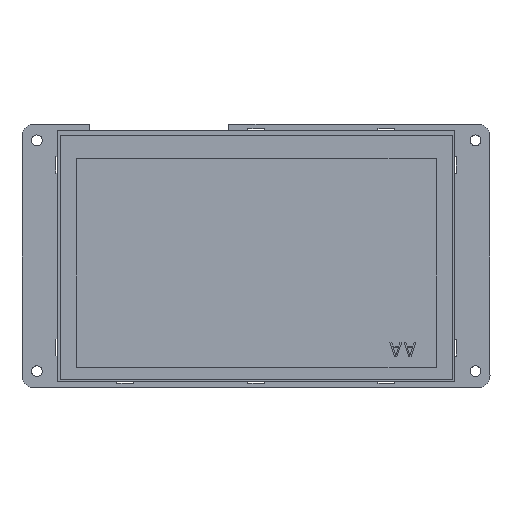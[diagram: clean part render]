
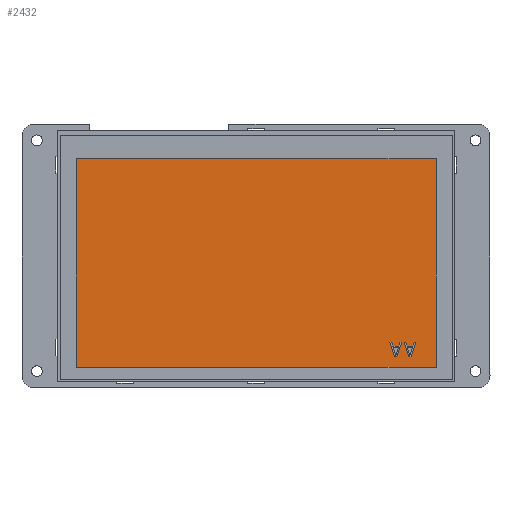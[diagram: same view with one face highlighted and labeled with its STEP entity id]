
A CAD part, front view. The second image highlights one B-rep face of the part: STEP entity #2432.
In plain terms, the highlighted planar face has unit normal (0, -1, 0) as drawn and (0, 1, 0) by its records, which use the part's own axes.
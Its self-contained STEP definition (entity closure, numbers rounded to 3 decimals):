
#1859=DIRECTION('',(0.,0.,1.));
#1860=VECTOR('',#1859,63.8);
#1861=CARTESIAN_POINT('',(-55.1,1.45,-33.55));
#1862=LINE('',#1861,#1860);
#1863=DIRECTION('',(-1.,0.,0.));
#1864=VECTOR('',#1863,110.2);
#1865=CARTESIAN_POINT('',(55.1,1.45,-33.55));
#1866=LINE('',#1865,#1864);
#1867=DIRECTION('',(0.,0.,-1.));
#1868=VECTOR('',#1867,63.8);
#1869=CARTESIAN_POINT('',(55.1,1.45,30.25));
#1870=LINE('',#1869,#1868);
#1871=DIRECTION('',(1.,0.,0.));
#1872=VECTOR('',#1871,110.2);
#1873=CARTESIAN_POINT('',(-55.1,1.45,30.25));
#1874=LINE('',#1873,#1872);
#1875=DIRECTION('',(0.316,0.,0.949));
#1876=VECTOR('',#1875,4.585);
#1877=CARTESIAN_POINT('',(-46.735,1.45,-30.336));
#1878=LINE('',#1877,#1876);
#1879=DIRECTION('',(1.,0.,0.));
#1880=VECTOR('',#1879,0.725);
#1881=CARTESIAN_POINT('',(-47.46,1.45,-30.336));
#1882=LINE('',#1881,#1880);
#1883=DIRECTION('',(0.316,0.,-0.949));
#1884=VECTOR('',#1883,4.585);
#1885=CARTESIAN_POINT('',(-48.91,1.45,-25.986));
#1886=LINE('',#1885,#1884);
#1887=DIRECTION('',(-1.,0.,0.));
#1888=VECTOR('',#1887,0.544);
#1889=CARTESIAN_POINT('',(-48.366,1.45,-25.986));
#1890=LINE('',#1889,#1888);
#1891=DIRECTION('',(-0.31,0.,0.951));
#1892=VECTOR('',#1891,1.168);
#1893=CARTESIAN_POINT('',(-48.004,1.45,-27.097));
#1894=LINE('',#1893,#1892);
#1895=DIRECTION('',(-1.,0.,0.));
#1896=VECTOR('',#1895,1.813);
#1897=CARTESIAN_POINT('',(-46.191,1.45,-27.097));
#1898=LINE('',#1897,#1896);
#1899=DIRECTION('',(-0.31,0.,-0.951));
#1900=VECTOR('',#1899,1.168);
#1901=CARTESIAN_POINT('',(-45.829,1.45,-25.986));
#1902=LINE('',#1901,#1900);
#1903=DIRECTION('',(-1.,0.,0.));
#1904=VECTOR('',#1903,0.544);
#1905=CARTESIAN_POINT('',(-45.285,1.45,-25.986));
#1906=LINE('',#1905,#1904);
#1919=DIRECTION('',(0.316,0.,0.949));
#1920=VECTOR('',#1919,4.585);
#1921=CARTESIAN_POINT('',(-42.385,1.45,-30.336));
#1922=LINE('',#1921,#1920);
#1923=DIRECTION('',(1.,0.,0.));
#1924=VECTOR('',#1923,0.725);
#1925=CARTESIAN_POINT('',(-43.11,1.45,-30.336));
#1926=LINE('',#1925,#1924);
#1927=DIRECTION('',(0.316,0.,-0.949));
#1928=VECTOR('',#1927,4.585);
#1929=CARTESIAN_POINT('',(-44.56,1.45,-25.986));
#1930=LINE('',#1929,#1928);
#1931=DIRECTION('',(-1.,0.,0.));
#1932=VECTOR('',#1931,0.544);
#1933=CARTESIAN_POINT('',(-44.016,1.45,-25.986));
#1934=LINE('',#1933,#1932);
#1935=DIRECTION('',(-0.31,0.,0.951));
#1936=VECTOR('',#1935,1.168);
#1937=CARTESIAN_POINT('',(-43.654,1.45,-27.097));
#1938=LINE('',#1937,#1936);
#1939=DIRECTION('',(-1.,0.,0.));
#1940=VECTOR('',#1939,1.812);
#1941=CARTESIAN_POINT('',(-41.841,1.45,-27.097));
#1942=LINE('',#1941,#1940);
#1943=DIRECTION('',(-0.31,0.,-0.951));
#1944=VECTOR('',#1943,1.168);
#1945=CARTESIAN_POINT('',(-41.479,1.45,-25.986));
#1946=LINE('',#1945,#1944);
#1947=DIRECTION('',(-1.,0.,0.));
#1948=VECTOR('',#1947,0.544);
#1949=CARTESIAN_POINT('',(-40.935,1.45,-25.986));
#1950=LINE('',#1949,#1948);
#2067=CARTESIAN_POINT('',(-55.1,1.45,-33.55));
#2068=CARTESIAN_POINT('',(-55.1,1.45,30.25));
#2069=VERTEX_POINT('',#2067);
#2070=VERTEX_POINT('',#2068);
#2071=CARTESIAN_POINT('',(55.1,1.45,30.25));
#2072=VERTEX_POINT('',#2071);
#2073=CARTESIAN_POINT('',(55.1,1.45,-33.55));
#2074=VERTEX_POINT('',#2073);
#2075=CARTESIAN_POINT('',(-46.735,1.45,-30.336));
#2076=CARTESIAN_POINT('',(-45.285,1.45,-25.986));
#2077=VERTEX_POINT('',#2075);
#2078=VERTEX_POINT('',#2076);
#2079=CARTESIAN_POINT('',(-45.829,1.45,-25.986));
#2080=VERTEX_POINT('',#2079);
#2081=CARTESIAN_POINT('',(-46.191,1.45,-27.097));
#2082=VERTEX_POINT('',#2081);
#2083=CARTESIAN_POINT('',(-48.004,1.45,-27.097));
#2084=VERTEX_POINT('',#2083);
#2085=CARTESIAN_POINT('',(-48.366,1.45,-25.986));
#2086=VERTEX_POINT('',#2085);
#2087=CARTESIAN_POINT('',(-48.91,1.45,-25.986));
#2088=VERTEX_POINT('',#2087);
#2089=CARTESIAN_POINT('',(-47.46,1.45,-30.336));
#2090=VERTEX_POINT('',#2089);
#2097=CARTESIAN_POINT('',(-42.385,1.45,-30.336));
#2098=CARTESIAN_POINT('',(-40.935,1.45,-25.986));
#2099=VERTEX_POINT('',#2097);
#2100=VERTEX_POINT('',#2098);
#2101=CARTESIAN_POINT('',(-41.479,1.45,-25.986));
#2102=VERTEX_POINT('',#2101);
#2103=CARTESIAN_POINT('',(-41.841,1.45,-27.097));
#2104=VERTEX_POINT('',#2103);
#2105=CARTESIAN_POINT('',(-43.654,1.45,-27.097));
#2106=VERTEX_POINT('',#2105);
#2107=CARTESIAN_POINT('',(-44.016,1.45,-25.986));
#2108=VERTEX_POINT('',#2107);
#2109=CARTESIAN_POINT('',(-44.56,1.45,-25.986));
#2110=VERTEX_POINT('',#2109);
#2111=CARTESIAN_POINT('',(-43.11,1.45,-30.336));
#2112=VERTEX_POINT('',#2111);
#2385=CARTESIAN_POINT('',(0.,1.45,0.));
#2386=DIRECTION('',(0.,1.,0.));
#2387=DIRECTION('',(1.,0.,0.));
#2388=AXIS2_PLACEMENT_3D('',#2385,#2386,#2387);
#2389=PLANE('',#2388);
#2390=ORIENTED_EDGE('',*,*,#2337,.F.);
#2391=ORIENTED_EDGE('',*,*,#2352,.F.);
#2392=ORIENTED_EDGE('',*,*,#2366,.F.);
#2393=ORIENTED_EDGE('',*,*,#2379,.F.);
#2394=EDGE_LOOP('',(#2390,#2391,#2392,#2393));
#2395=FACE_OUTER_BOUND('',#2394,.F.);
#2397=ORIENTED_EDGE('',*,*,#2396,.F.);
#2399=ORIENTED_EDGE('',*,*,#2398,.F.);
#2401=ORIENTED_EDGE('',*,*,#2400,.F.);
#2403=ORIENTED_EDGE('',*,*,#2402,.F.);
#2405=ORIENTED_EDGE('',*,*,#2404,.F.);
#2407=ORIENTED_EDGE('',*,*,#2406,.F.);
#2409=ORIENTED_EDGE('',*,*,#2408,.F.);
#2411=ORIENTED_EDGE('',*,*,#2410,.F.);
#2412=EDGE_LOOP('',(#2397,#2399,#2401,#2403,#2405,#2407,#2409,#2411));
#2413=FACE_BOUND('',#2412,.F.);
#2415=ORIENTED_EDGE('',*,*,#2414,.F.);
#2417=ORIENTED_EDGE('',*,*,#2416,.F.);
#2419=ORIENTED_EDGE('',*,*,#2418,.F.);
#2421=ORIENTED_EDGE('',*,*,#2420,.F.);
#2423=ORIENTED_EDGE('',*,*,#2422,.F.);
#2425=ORIENTED_EDGE('',*,*,#2424,.F.);
#2427=ORIENTED_EDGE('',*,*,#2426,.F.);
#2429=ORIENTED_EDGE('',*,*,#2428,.F.);
#2430=EDGE_LOOP('',(#2415,#2417,#2419,#2421,#2423,#2425,#2427,#2429));
#2431=FACE_BOUND('',#2430,.F.);
#2337=EDGE_CURVE('',#2069,#2070,#1862,.T.);
#2352=EDGE_CURVE('',#2074,#2069,#1866,.T.);
#2366=EDGE_CURVE('',#2072,#2074,#1870,.T.);
#2379=EDGE_CURVE('',#2070,#2072,#1874,.T.);
#2396=EDGE_CURVE('',#2077,#2078,#1878,.T.);
#2398=EDGE_CURVE('',#2090,#2077,#1882,.T.);
#2400=EDGE_CURVE('',#2088,#2090,#1886,.T.);
#2402=EDGE_CURVE('',#2086,#2088,#1890,.T.);
#2404=EDGE_CURVE('',#2084,#2086,#1894,.T.);
#2406=EDGE_CURVE('',#2082,#2084,#1898,.T.);
#2408=EDGE_CURVE('',#2080,#2082,#1902,.T.);
#2410=EDGE_CURVE('',#2078,#2080,#1906,.T.);
#2414=EDGE_CURVE('',#2099,#2100,#1922,.T.);
#2416=EDGE_CURVE('',#2112,#2099,#1926,.T.);
#2418=EDGE_CURVE('',#2110,#2112,#1930,.T.);
#2420=EDGE_CURVE('',#2108,#2110,#1934,.T.);
#2422=EDGE_CURVE('',#2106,#2108,#1938,.T.);
#2424=EDGE_CURVE('',#2104,#2106,#1942,.T.);
#2426=EDGE_CURVE('',#2102,#2104,#1946,.T.);
#2428=EDGE_CURVE('',#2100,#2102,#1950,.T.);
#2432=ADVANCED_FACE('',(#2395,#2413,#2431),#2389,.T.);
